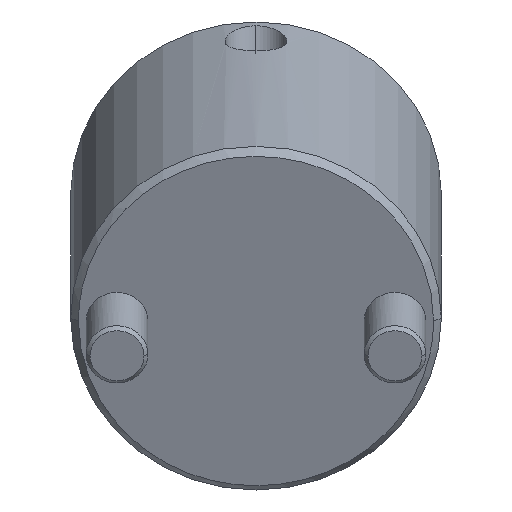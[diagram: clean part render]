
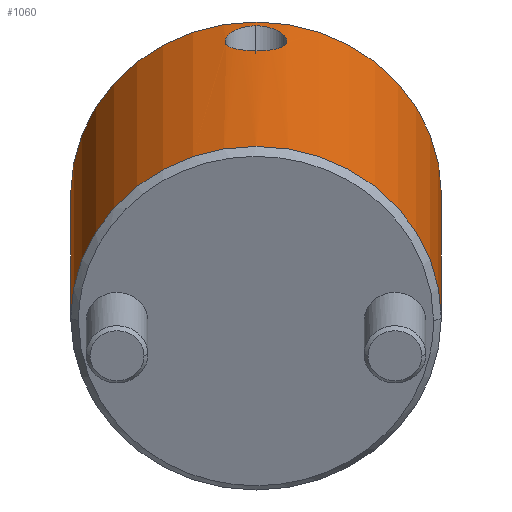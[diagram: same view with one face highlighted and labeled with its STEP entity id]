
A CAD part, front view. The second image highlights one B-rep face of the part: STEP entity #1060.
In plain terms, the highlighted cylindrical face has radius 24 mm (diameter 48 mm), a partial arc.
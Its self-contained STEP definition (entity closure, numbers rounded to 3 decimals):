
#802=CARTESIAN_POINT('Vertex',(0.,24.,1.)) ;
#805=CARTESIAN_POINT('Axis2P3D Location',(0.,0.,1.)) ;
#809=CARTESIAN_POINT('Vertex',(0.,-24.,1.)) ;
#961=CARTESIAN_POINT('Axis2P3D Location',(0.,0.,-2.25)) ;
#966=CARTESIAN_POINT('Line Origine',(0.,24.,-2.25)) ;
#970=CARTESIAN_POINT('Vertex',(0.,24.,44.)) ;
#973=CARTESIAN_POINT('Axis2P3D Location',(0.,0.,44.)) ;
#977=CARTESIAN_POINT('Vertex',(0.,-24.,44.)) ;
#980=CARTESIAN_POINT('Line Origine',(0.,-24.,-2.25)) ;
#992=CARTESIAN_POINT('Control Point',(24.,0.,42.696)) ;
#993=CARTESIAN_POINT('Control Point',(24.,0.373,42.696)) ;
#994=CARTESIAN_POINT('Control Point',(23.993,0.739,42.646)) ;
#995=CARTESIAN_POINT('Control Point',(23.979,1.097,42.549)) ;
#996=CARTESIAN_POINT('Control Point',(23.939,1.793,42.264)) ;
#997=CARTESIAN_POINT('Control Point',(23.881,2.415,41.809)) ;
#998=CARTESIAN_POINT('Control Point',(23.849,2.711,41.532)) ;
#999=CARTESIAN_POINT('Control Point',(23.79,3.182,40.976)) ;
#1000=CARTESIAN_POINT('Control Point',(23.739,3.536,40.33)) ;
#1001=CARTESIAN_POINT('Control Point',(23.719,3.664,40.041)) ;
#1002=CARTESIAN_POINT('Control Point',(23.686,3.874,39.44)) ;
#1003=CARTESIAN_POINT('Control Point',(23.667,3.981,38.813)) ;
#1004=CARTESIAN_POINT('Control Point',(23.663,4.01,38.496)) ;
#1005=CARTESIAN_POINT('Control Point',(23.663,4.011,37.97)) ;
#1006=CARTESIAN_POINT('Control Point',(23.675,3.939,37.455)) ;
#1007=CARTESIAN_POINT('Control Point',(23.681,3.899,37.255)) ;
#1008=CARTESIAN_POINT('Control Point',(23.706,3.746,36.668)) ;
#1009=CARTESIAN_POINT('Control Point',(23.745,3.497,36.124)) ;
#1010=CARTESIAN_POINT('Control Point',(23.775,3.289,35.783)) ;
#1011=CARTESIAN_POINT('Control Point',(23.832,2.858,35.241)) ;
#1012=CARTESIAN_POINT('Control Point',(23.889,2.326,34.806)) ;
#1013=CARTESIAN_POINT('Control Point',(23.911,2.084,34.644)) ;
#1014=CARTESIAN_POINT('Control Point',(23.954,1.546,34.35)) ;
#1015=CARTESIAN_POINT('Control Point',(23.984,0.96,34.166)) ;
#1016=CARTESIAN_POINT('Control Point',(23.995,0.644,34.1)) ;
#1017=CARTESIAN_POINT('Control Point',(24.,0.323,34.068)) ;
#1018=CARTESIAN_POINT('Control Point',(24.,0.,34.068)) ;
#1019=CARTESIAN_POINT('Vertex',(24.,0.,42.696)) ;
#1021=CARTESIAN_POINT('Vertex',(24.,0.,34.068)) ;
#1025=CARTESIAN_POINT('Control Point',(24.,0.,34.068)) ;
#1026=CARTESIAN_POINT('Control Point',(24.,-0.486,34.068)) ;
#1027=CARTESIAN_POINT('Control Point',(23.988,-0.966,34.141)) ;
#1028=CARTESIAN_POINT('Control Point',(23.963,-1.435,34.289)) ;
#1029=CARTESIAN_POINT('Control Point',(23.91,-2.136,34.637)) ;
#1030=CARTESIAN_POINT('Control Point',(23.846,-2.731,35.144)) ;
#1031=CARTESIAN_POINT('Control Point',(23.821,-2.936,35.354)) ;
#1032=CARTESIAN_POINT('Control Point',(23.772,-3.308,35.815)) ;
#1033=CARTESIAN_POINT('Control Point',(23.73,-3.592,36.337)) ;
#1034=CARTESIAN_POINT('Control Point',(23.712,-3.712,36.613)) ;
#1035=CARTESIAN_POINT('Control Point',(23.681,-3.903,37.188)) ;
#1036=CARTESIAN_POINT('Control Point',(23.665,-3.994,37.799)) ;
#1037=CARTESIAN_POINT('Control Point',(23.662,-4.014,38.113)) ;
#1038=CARTESIAN_POINT('Control Point',(23.664,-4.002,38.641)) ;
#1039=CARTESIAN_POINT('Control Point',(23.678,-3.918,39.161)) ;
#1040=CARTESIAN_POINT('Control Point',(23.686,-3.872,39.367)) ;
#1041=CARTESIAN_POINT('Control Point',(23.704,-3.758,39.776)) ;
#1042=CARTESIAN_POINT('Control Point',(23.729,-3.6,40.171)) ;
#1043=CARTESIAN_POINT('Control Point',(23.742,-3.51,40.362)) ;
#1044=CARTESIAN_POINT('Control Point',(23.771,-3.31,40.733)) ;
#1045=CARTESIAN_POINT('Control Point',(23.803,-3.071,41.078)) ;
#1046=CARTESIAN_POINT('Control Point',(23.82,-2.941,41.243)) ;
#1047=CARTESIAN_POINT('Control Point',(23.86,-2.605,41.624)) ;
#1048=CARTESIAN_POINT('Control Point',(23.898,-2.226,41.944)) ;
#1049=CARTESIAN_POINT('Control Point',(23.92,-1.985,42.113)) ;
#1050=CARTESIAN_POINT('Control Point',(23.959,-1.469,42.408)) ;
#1051=CARTESIAN_POINT('Control Point',(23.985,-0.91,42.595)) ;
#1052=CARTESIAN_POINT('Control Point',(23.995,-0.612,42.662)) ;
#1053=CARTESIAN_POINT('Control Point',(24.,-0.308,42.696)) ;
#1054=CARTESIAN_POINT('Control Point',(24.,0.,42.696)) ;
#806=DIRECTION('Axis2P3D Direction',(0.,0.,1.)) ;
#962=DIRECTION('Axis2P3D Direction',(0.,-0.,1.)) ;
#963=DIRECTION('Axis2P3D XDirection',(0.,-1.,0.)) ;
#967=DIRECTION('Vector Direction',(0.,0.,1.)) ;
#974=DIRECTION('Axis2P3D Direction',(0.,-0.,1.)) ;
#981=DIRECTION('Vector Direction',(0.,0.,1.)) ;
#807=AXIS2_PLACEMENT_3D('Circle Axis2P3D',#805,#806,$) ;
#964=AXIS2_PLACEMENT_3D('Cylinder Axis2P3D',#961,#962,#963) ;
#975=AXIS2_PLACEMENT_3D('Circle Axis2P3D',#973,#974,$) ;
#986=ORIENTED_EDGE('',*,*,#972,.F.) ;
#987=ORIENTED_EDGE('',*,*,#979,.T.) ;
#988=ORIENTED_EDGE('',*,*,#984,.T.) ;
#989=ORIENTED_EDGE('',*,*,#811,.F.) ;
#1057=ORIENTED_EDGE('',*,*,#1023,.T.) ;
#1058=ORIENTED_EDGE('',*,*,#1055,.T.) ;
#1059=FACE_BOUND('',#1056,.T.) ;
#968=VECTOR('Line Direction',#967,1.) ;
#982=VECTOR('Line Direction',#981,1.) ;
#1060=ADVANCED_FACE('MANIFOLD_SOLID_BREP #1138',(#990,#1059),#965,.T.) ;
#991=B_SPLINE_CURVE_WITH_KNOTS('',5,(#992,#993,#994,#995,#996,#997,#998,#999,#1000,#1001,#1002,#1003,#1004,#1005,#1006,#1007,#1008,#1009,#1010,#1011,#1012,#1013,#1014,#1015,#1016,#1017,#1018),.UNSPECIFIED.,.F.,.U.,(6,3,3,3,3,3,3,3,6),(0.,2.693,5.526,7.708,9.869,11.292,14.112,16.208,18.526),.UNSPECIFIED.) ;
#1024=B_SPLINE_CURVE_WITH_KNOTS('',5,(#1025,#1026,#1027,#1028,#1029,#1030,#1031,#1032,#1033,#1034,#1035,#1036,#1037,#1038,#1039,#1040,#1041,#1042,#1043,#1044,#1045,#1046,#1047,#1048,#1049,#1050,#1051,#1052,#1053,#1054),.UNSPECIFIED.,.F.,.U.,(6,3,3,3,3,3,3,3,3,6),(0.,3.487,5.592,7.718,9.853,11.307,12.759,14.188,16.298,18.521),.UNSPECIFIED.) ;
#808=CIRCLE('generated circle',#807,24.) ;
#976=CIRCLE('generated circle',#975,24.) ;
#965=CYLINDRICAL_SURFACE('generated cylinder',#964,24.) ;
#811=EDGE_CURVE('',#803,#810,#808,.F.) ;
#972=EDGE_CURVE('',#971,#803,#969,.F.) ;
#979=EDGE_CURVE('',#971,#978,#976,.F.) ;
#984=EDGE_CURVE('',#978,#810,#983,.F.) ;
#1023=EDGE_CURVE('',#1020,#1022,#991,.T.) ;
#1055=EDGE_CURVE('',#1022,#1020,#1024,.T.) ;
#985=EDGE_LOOP('',(#986,#987,#988,#989)) ;
#1056=EDGE_LOOP('',(#1057,#1058)) ;
#990=FACE_OUTER_BOUND('',#985,.T.) ;
#969=LINE('Line',#966,#968) ;
#983=LINE('Line',#980,#982) ;
#803=VERTEX_POINT('',#802) ;
#810=VERTEX_POINT('',#809) ;
#971=VERTEX_POINT('',#970) ;
#978=VERTEX_POINT('',#977) ;
#1020=VERTEX_POINT('',#1019) ;
#1022=VERTEX_POINT('',#1021) ;
